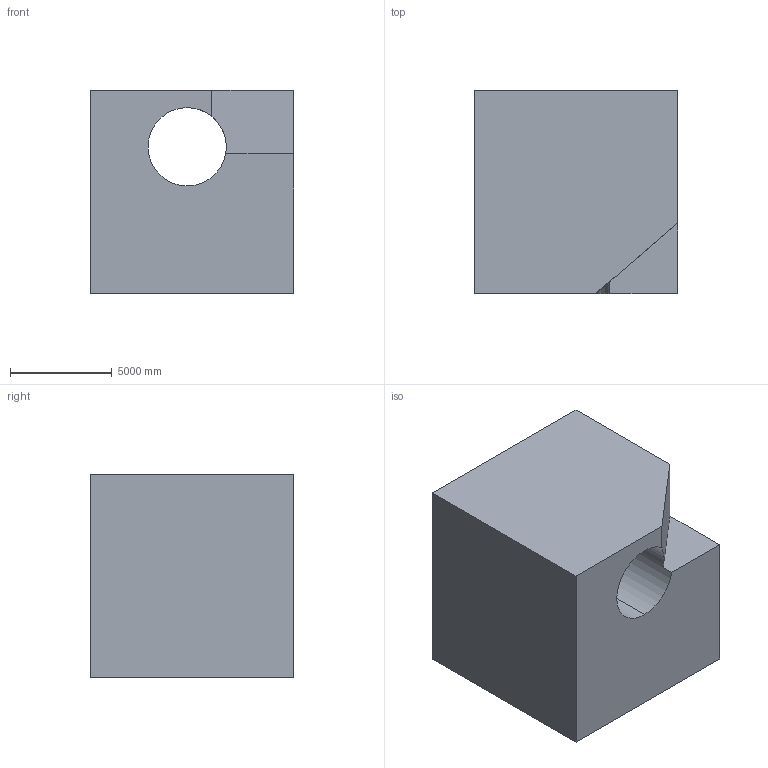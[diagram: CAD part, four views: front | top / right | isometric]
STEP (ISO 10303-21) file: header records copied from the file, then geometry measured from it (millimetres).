
FILE_DESCRIPTION (( 'STEP AP203' ), '1' );
FILE_NAME ('106.STEP', '2022-07-28T13:37:48', ( 'user' ), ( '' ), 'SwSTEP 2.0', 'SolidWorks 2021', '' );
FILE_SCHEMA (( 'CONFIG_CONTROL_DESIGN' ));
Length unit declared in the file: centimetre
Products named in the file (1): 106
Bounding box: 10000 x 10000 x 10000 mm (x, y, z)
Volume: 861979675368.8 mm3; surface area: 689446699 mm2
Topology: 1 solids, 1 shells, 10 faces, 27 edges, 18 vertices
Faces by surface type: plane 8, cylinder 2
Entity records: 397 total; most frequent: CARTESIAN_POINT 59, ORIENTED_EDGE 54, DIRECTION 53, EDGE_CURVE 27, LINE 21, VECTOR 21, VERTEX_POINT 18, AXIS2_PLACEMENT_3D 16
